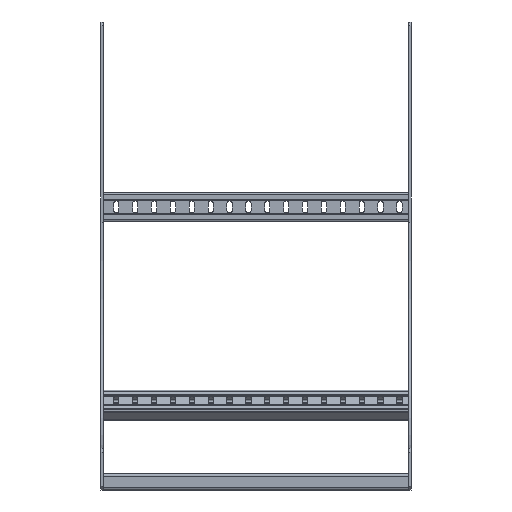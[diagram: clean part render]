
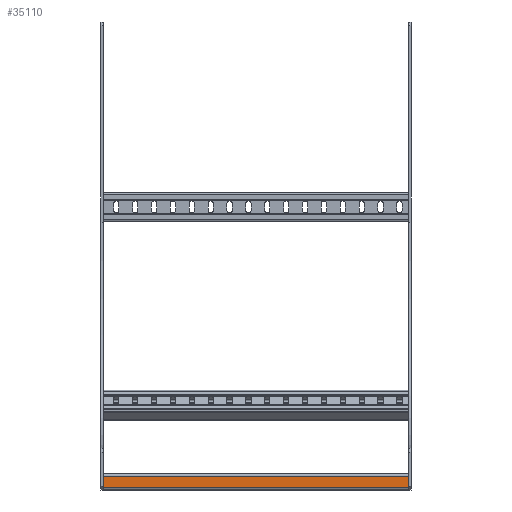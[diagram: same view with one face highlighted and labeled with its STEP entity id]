
A CAD part, front view. The second image highlights one B-rep face of the part: STEP entity #35110.
In plain terms, the highlighted planar face has unit normal (0, -1, 0) as drawn and (1, 0, 0) by its records, which use the part's own axes.
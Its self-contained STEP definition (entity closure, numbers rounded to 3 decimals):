
#30260=CARTESIAN_POINT('',(39.75,881.5,-2.5));
#30270=VERTEX_POINT('',#30260);
#30300=CARTESIAN_POINT('',(39.75,0.,-2.5));
#30310=DIRECTION('',(0.,-1.,0.));
#30320=VECTOR('',#30310,1.);
#30330=LINE('',#30300,#30320);
#30340=CARTESIAN_POINT('',(39.75,896.5,-2.5));
#30350=VERTEX_POINT('',#30340);
#30360=EDGE_CURVE('',#30350,#30270,#30330,.T.);
#31680=CARTESIAN_POINT('',(39.75,896.5,402.5));
#31690=VERTEX_POINT('',#31680);
#31720=CARTESIAN_POINT('',(39.75,0.,402.5));
#31730=DIRECTION('',(0.,1.,0.));
#31740=VECTOR('',#31730,1.);
#31750=LINE('',#31720,#31740);
#31760=CARTESIAN_POINT('',(39.75,881.5,402.5));
#31770=VERTEX_POINT('',#31760);
#31780=EDGE_CURVE('',#31770,#31690,#31750,.T.);
#34840=CARTESIAN_POINT('',(39.75,881.5,240.));
#34850=DIRECTION('',(0.,0.,1.));
#34860=VECTOR('',#34850,1.);
#34870=LINE('',#34840,#34860);
#34880=EDGE_CURVE('',#30270,#31770,#34870,.T.);
#34950=CARTESIAN_POINT('',(39.75,900.,240.));
#34960=DIRECTION('',(1.,0.,0.));
#34970=DIRECTION('',(0.,-1.,0.));
#34980=AXIS2_PLACEMENT_3D('',#34950,#34960,#34970);
#34990=PLANE('',#34980);
#35000=ORIENTED_EDGE('',*,*,#31780,.F.);
#35010=CARTESIAN_POINT('',(39.75,896.5,-60.));
#35020=DIRECTION('',(0.,0.,1.));
#35030=VECTOR('',#35020,1.);
#35040=LINE('',#35010,#35030);
#35050=EDGE_CURVE('',#30350,#31690,#35040,.T.);
#35060=ORIENTED_EDGE('',*,*,#35050,.T.);
#35070=ORIENTED_EDGE('',*,*,#30360,.F.);
#35080=ORIENTED_EDGE('',*,*,#34880,.F.);
#35090=EDGE_LOOP('',(#35080,#35070,#35060,#35000));
#35100=FACE_OUTER_BOUND('',#35090,.T.);
#35110=ADVANCED_FACE('',(#35100),#34990,.T.);
